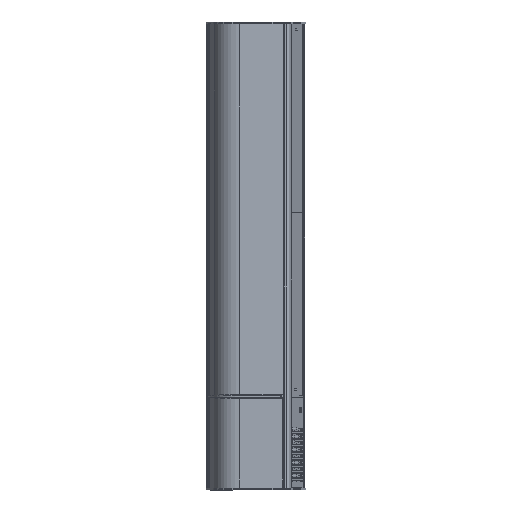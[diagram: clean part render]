
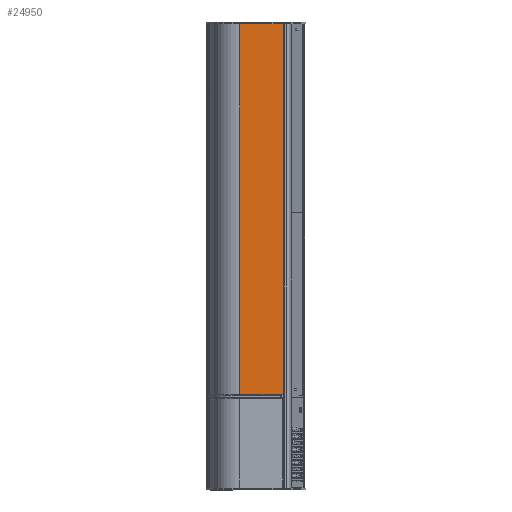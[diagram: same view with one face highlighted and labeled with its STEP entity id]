
A CAD part, top view. The second image highlights one B-rep face of the part: STEP entity #24950.
In plain terms, the highlighted planar face has unit normal (0.009, 0, 1) as drawn and (1, 0, 0) by its records, which use the part's own axes.
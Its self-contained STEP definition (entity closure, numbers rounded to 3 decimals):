
#1542=LINE('',#37572,#4505);
#1543=LINE('',#37575,#4506);
#1544=LINE('',#37577,#4507);
#1545=LINE('',#37579,#4508);
#4505=VECTOR('',#30787,1000.);
#4506=VECTOR('',#30788,1000.);
#4507=VECTOR('',#30789,1000.);
#4508=VECTOR('',#30790,1000.);
#9180=ORIENTED_EDGE('',*,*,#14957,.T.);
#9181=ORIENTED_EDGE('',*,*,#14958,.T.);
#9182=ORIENTED_EDGE('',*,*,#14959,.F.);
#9183=ORIENTED_EDGE('',*,*,#14960,.T.);
#14957=EDGE_CURVE('',#18077,#18078,#1542,.T.);
#14958=EDGE_CURVE('',#18078,#18079,#1543,.T.);
#14959=EDGE_CURVE('',#18080,#18079,#1544,.T.);
#14960=EDGE_CURVE('',#18080,#18077,#1545,.T.);
#18077=VERTEX_POINT('',#37573);
#18078=VERTEX_POINT('',#37574);
#18079=VERTEX_POINT('',#37576);
#18080=VERTEX_POINT('',#37578);
#20702=EDGE_LOOP('',(#9180,#9181,#9182,#9183));
#22407=FACE_BOUND('',#20702,.T.);
#23810=PLANE('',#27148);
#24950=ADVANCED_FACE('',(#22407),#23810,.F.);
#27148=AXIS2_PLACEMENT_3D('',#37571,#30785,#30786);
#30785=DIRECTION('',(-1.,0.,0.));
#30786=DIRECTION('',(0.,0.,1.));
#30787=DIRECTION('',(0.,1.,0.));
#30788=DIRECTION('',(0.,0.,1.));
#30789=DIRECTION('',(0.,1.,0.));
#30790=DIRECTION('',(0.,0.,-1.));
#37571=CARTESIAN_POINT('',(155.706,-713.,-285.499));
#37572=CARTESIAN_POINT('',(155.706,-713.,-284.499));
#37573=CARTESIAN_POINT('',(155.706,-712.,-284.499));
#37574=CARTESIAN_POINT('',(155.706,712.,-284.499));
#37575=CARTESIAN_POINT('',(155.706,712.,-285.499));
#37576=CARTESIAN_POINT('',(155.706,712.,-118.454));
#37577=CARTESIAN_POINT('',(155.706,-713.,-118.454));
#37578=CARTESIAN_POINT('',(155.706,-712.,-118.454));
#37579=CARTESIAN_POINT('',(155.706,-712.,-285.499));
